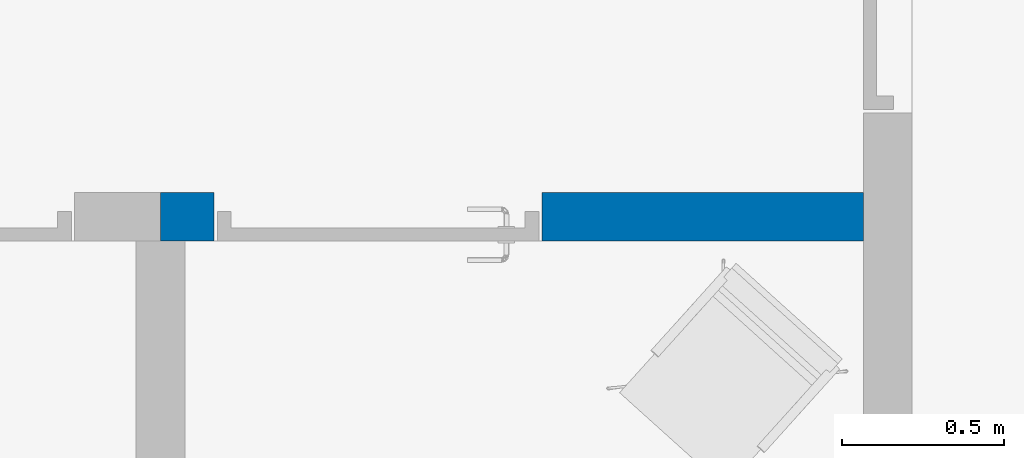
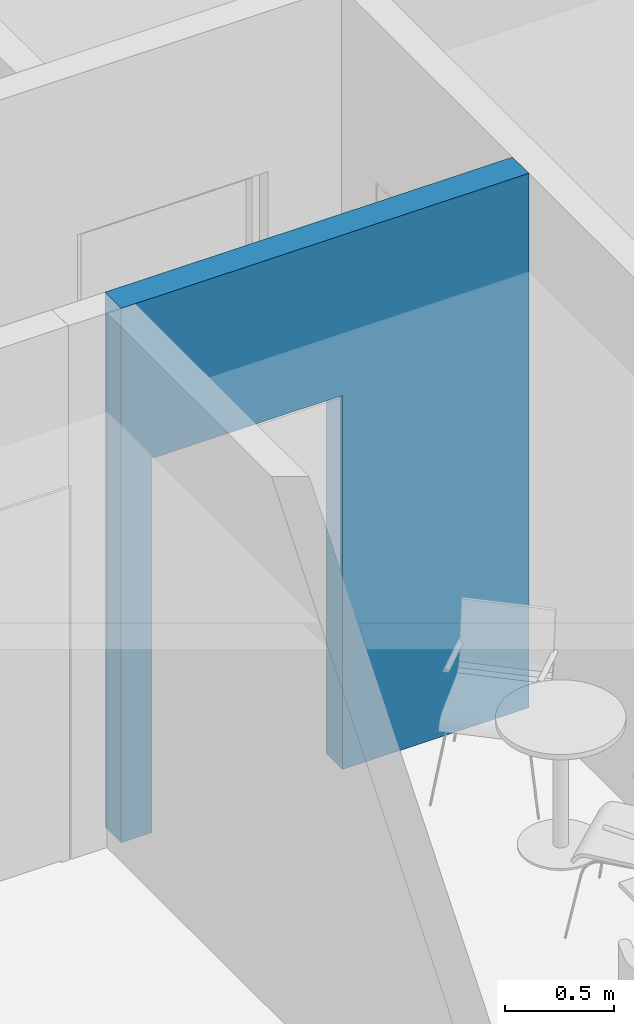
# One storey, part 21 of 58: 1 wall, 2 openings.
"""IFC2X3 building model written with IfcOpenShell, lengths in millimetres."""

from ifc_helpers import new_model, entity, si_unit, converted_unit, derived_unit, direction, frame, frame_2d, origin, origin_2d_with_axis, place, context, subcontext, project, spatial, rectangle, extrude, material, layer, layer_set, layer_usage, type_object, element, save


model = new_model("IFC2X3")

# Units and contexts
model_context = context("Model", 3, precision=0.01, world=origin(), true_north=direction((0.7716245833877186, 0.6360782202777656)))
body_context = subcontext(model_context, "Body", "Model", "MODEL_VIEW")
ifc_project = project(units=[si_unit("LENGTHUNIT", "METRE", prefix="MILLI"), si_unit("AREAUNIT", "SQUARE_METRE"), converted_unit("PLANEANGLEUNIT", "DEGREE", entity("IfcPlaneAngleMeasure", 0.017453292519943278), si_unit("PLANEANGLEUNIT", "RADIAN"), dimensions=[0, 0, 0, 0, 0, 0, 0]), derived_unit("THERMALTRANSMITTANCEUNIT", [(si_unit("MASSUNIT", "GRAM", prefix="KILO"), 1), (si_unit("THERMODYNAMICTEMPERATUREUNIT", "KELVIN"), -1), (si_unit("TIMEUNIT", "SECOND"), -3)])], contexts=[model_context])

# Site, building, storey
site_placement = place(None, origin())
site = spatial("IfcSite", under=ifc_project, at=site_placement, Name="Default", CompositionType="ELEMENT")
building_placement = place(site_placement, origin())
building = spatial("IfcBuilding", under=site, at=building_placement, CompositionType="ELEMENT")
storey_placement = place(building_placement, frame((0.0, 0.0, 31140.0)))
storey = spatial("IfcBuildingStorey", under=building, at=storey_placement, Name="PLAN U1", CompositionType="ELEMENT", Elevation=31140.000000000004)

# Wall, openings
ifc_material = material(Name="Eksist. vegg")
ifc_layer = layer(ifc_material, 150.0)
ifc_layer_set = layer_set([ifc_layer], Name="Basic Wall:240 Eksist. Innervegg 150 mm")
ifc_layer_usage = layer_usage(ifc_layer_set, "AXIS2", "NEGATIVE", 75.0)
wall_type = type_object("IfcWallType", Name="Basic Wall:240 Eksist. Innervegg 150 mm", PredefinedType="STANDARD", material=ifc_layer_set)
wall_placement = place(storey_placement, frame((273167.924446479, 57590.25555007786, 0.0)))
wall = element("IfcWallStandardCase", 1, at=wall_placement, inside=storey, type_object=wall_type, material=ifc_layer_usage, Name="Basic Wall:240 Eksist. Innervegg 150 mm", ObjectType="Basic Wall:240 Eksist. Innervegg 150 mm", context=body_context, shape_type="SweptSolid", body=[
    extrude(rectangle(XDim=2165.00000000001, YDim=150.00000000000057, at=frame_2d((1082.500000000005, -1.2008172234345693e-12), x_axis=(-1.0, 0.0))), origin(), (0.0, 0.0, 1.0), 2999.9999999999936),
])
opening_1_placement = place(wall_placement, frame((1175.0, 75.0, 0.0)))
element("IfcOpeningElement", 2, at=opening_1_placement, cuts=wall, Name="Enfløyet:2441 Innvendig 10x21M:1", ObjectType="Opening", context=body_context, shape_type="SweptSolid", body=[
    extrude(rectangle(XDim=2100.0, YDim=1009.9999999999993, at=frame_2d((1049.9999999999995, 504.99999999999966), x_axis=(1.0, 0.0))), frame((0.0, 0.0, 0.0), z_axis=(0.0, -1.0, 0.0), x_axis=(0.0, 0.0, 1.0)), (0.0, 0.0, 1.0), 150.0),
])
opening_2_placement = place(wall_placement, frame((-273167.924446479, -57590.25555007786, 0.0)))
element("IfcOpeningElement", 3, at=opening_2_placement, cuts=wall, Name="Basic Wall:240 Eksist. Innervegg 150 mm", ObjectType="Opening", context=body_context, shape_type="SweptSolid", body=[
    extrude(rectangle(XDim=2099.999999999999, YDim=1010.000000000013, at=origin_2d_with_axis()), frame((273837.9244464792, 56141.255550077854, 1050.0), z_axis=(0.0, 1.0, 0.0), x_axis=(0.0, 0.0, 1.0)), (0.0, 0.0, 1.0), 3048.0),
])

save(model, "model.ifc")
